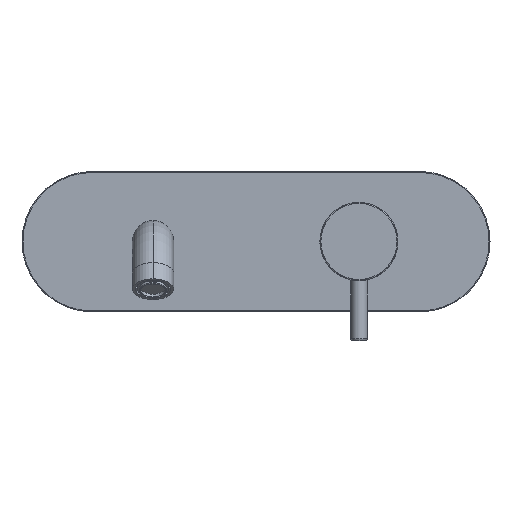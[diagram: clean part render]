
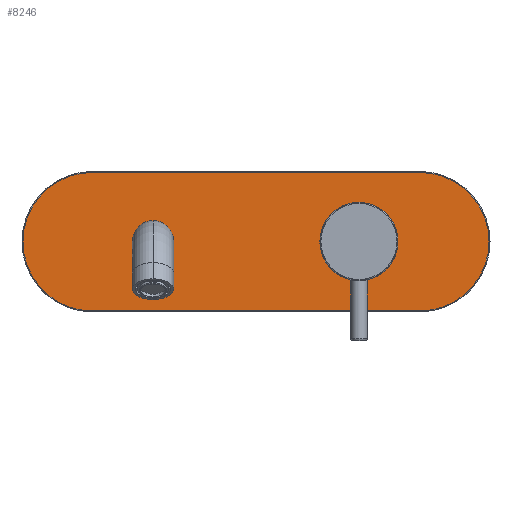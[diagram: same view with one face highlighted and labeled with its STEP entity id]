
A CAD part, top view. The second image highlights one B-rep face of the part: STEP entity #8246.
In plain terms, the highlighted planar face has unit normal (0, 0, 1).
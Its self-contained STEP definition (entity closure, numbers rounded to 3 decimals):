
#3972=CARTESIAN_POINT('',(-144.5,0.,49.1));
#3973=DIRECTION('',(0.,0.,1.));
#3974=DIRECTION('',(0.,1.,0.));
#3975=AXIS2_PLACEMENT_3D('',#3972,#3973,#3974);
#3977=DIRECTION('',(-1.,0.,0.));
#3978=VECTOR('',#3977,175.);
#3979=CARTESIAN_POINT('',(30.5,37.,49.1));
#3980=LINE('',#3979,#3978);
#3981=CARTESIAN_POINT('',(30.5,0.,49.1));
#3982=DIRECTION('',(0.,0.,1.));
#3983=DIRECTION('',(0.,-1.,0.));
#3984=AXIS2_PLACEMENT_3D('',#3981,#3982,#3983);
#3986=DIRECTION('',(1.,0.,0.));
#3987=VECTOR('',#3986,175.);
#3988=CARTESIAN_POINT('',(-144.5,-37.,49.1));
#3989=LINE('',#3988,#3987);
#3990=CARTESIAN_POINT('',(-2.,0.,49.1));
#3991=DIRECTION('',(0.,0.,1.));
#3992=DIRECTION('',(1.,0.,0.));
#3993=AXIS2_PLACEMENT_3D('',#3990,#3991,#3992);
#3995=CARTESIAN_POINT('',(-2.,0.,49.1));
#3996=DIRECTION('',(0.,0.,1.));
#3997=DIRECTION('',(-1.,0.,0.));
#3998=AXIS2_PLACEMENT_3D('',#3995,#3996,#3997);
#4000=CARTESIAN_POINT('',(-112.,0.,49.1));
#4001=DIRECTION('',(0.,0.,1.));
#4002=DIRECTION('',(0.,1.,0.));
#4003=AXIS2_PLACEMENT_3D('',#4000,#4001,#4002);
#4005=CARTESIAN_POINT('',(-112.,0.,49.1));
#4006=DIRECTION('',(0.,0.,1.));
#4007=DIRECTION('',(0.,-1.,0.));
#4008=AXIS2_PLACEMENT_3D('',#4005,#4006,#4007);
#5730=CARTESIAN_POINT('',(-144.5,37.,49.1));
#5731=CARTESIAN_POINT('',(-144.5,-37.,49.1));
#5732=VERTEX_POINT('',#5730);
#5733=VERTEX_POINT('',#5731);
#5738=CARTESIAN_POINT('',(30.5,-37.,49.1));
#5739=VERTEX_POINT('',#5738);
#5742=CARTESIAN_POINT('',(30.5,37.,49.1));
#5743=VERTEX_POINT('',#5742);
#5754=CARTESIAN_POINT('',(18.25,0.,49.1));
#5755=CARTESIAN_POINT('',(-22.25,0.,49.1));
#5756=VERTEX_POINT('',#5754);
#5757=VERTEX_POINT('',#5755);
#5886=CARTESIAN_POINT('',(-112.,11.,49.1));
#5887=CARTESIAN_POINT('',(-112.,-11.,49.1));
#5888=VERTEX_POINT('',#5886);
#5889=VERTEX_POINT('',#5887);
#8220=CARTESIAN_POINT('',(-57.,0.,49.1));
#8221=DIRECTION('',(0.,0.,1.));
#8222=DIRECTION('',(1.,0.,0.));
#8223=AXIS2_PLACEMENT_3D('',#8220,#8221,#8222);
#8224=PLANE('',#8223);
#8226=ORIENTED_EDGE('',*,*,#8225,.F.);
#8228=ORIENTED_EDGE('',*,*,#8227,.F.);
#8230=ORIENTED_EDGE('',*,*,#8229,.F.);
#8232=ORIENTED_EDGE('',*,*,#8231,.F.);
#8233=EDGE_LOOP('',(#8226,#8228,#8230,#8232));
#8234=FACE_OUTER_BOUND('',#8233,.F.);
#8236=ORIENTED_EDGE('',*,*,#8235,.T.);
#8238=ORIENTED_EDGE('',*,*,#8237,.T.);
#8239=EDGE_LOOP('',(#8236,#8238));
#8240=FACE_BOUND('',#8239,.F.);
#8242=ORIENTED_EDGE('',*,*,#8241,.T.);
#8243=ORIENTED_EDGE('',*,*,#8206,.T.);
#8244=EDGE_LOOP('',(#8242,#8243));
#8245=FACE_BOUND('',#8244,.F.);
#8246=ADVANCED_FACE('',(#8234,#8240,#8245),#8224,.T.);
#3976=CIRCLE('',#3975,37.);
#3985=CIRCLE('',#3984,37.);
#3994=CIRCLE('',#3993,20.25);
#3999=CIRCLE('',#3998,20.25);
#4004=CIRCLE('',#4003,11.);
#4009=CIRCLE('',#4008,11.);
#8206=EDGE_CURVE('',#5889,#5888,#4009,.T.);
#8225=EDGE_CURVE('',#5732,#5733,#3976,.T.);
#8227=EDGE_CURVE('',#5743,#5732,#3980,.T.);
#8229=EDGE_CURVE('',#5739,#5743,#3985,.T.);
#8231=EDGE_CURVE('',#5733,#5739,#3989,.T.);
#8235=EDGE_CURVE('',#5756,#5757,#3994,.T.);
#8237=EDGE_CURVE('',#5757,#5756,#3999,.T.);
#8241=EDGE_CURVE('',#5888,#5889,#4004,.T.);
